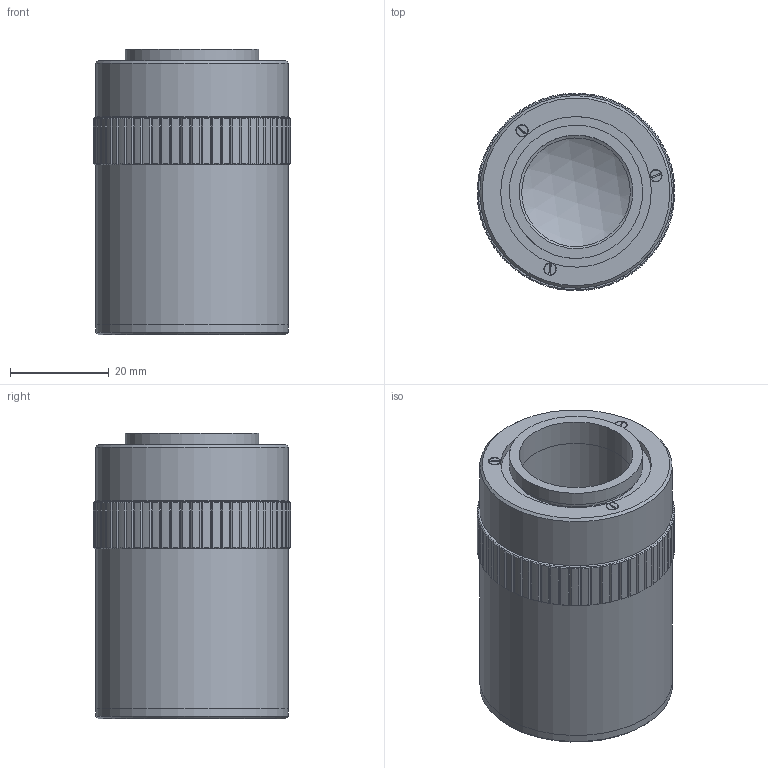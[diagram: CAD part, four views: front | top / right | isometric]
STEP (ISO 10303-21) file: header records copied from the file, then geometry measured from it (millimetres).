
FILE_DESCRIPTION (( 'STEP AP214' ), '1' );
FILE_NAME ('EFFO-SHARP-V2-NF.STEP', '2022-04-22T14:02:48', ( '' ), ( '' ), 'SwSTEP 2.0', 'SolidWorks 2021', '' );
FILE_SCHEMA (( 'AUTOMOTIVE_DESIGN' ));
Length unit declared in the file: millimetre
Products named in the file (1): EFFO-SHARP-V2-NF
Bounding box: 40 x 40 x 57.82 mm (x, y, z)
Surface area: 13732.6 mm2 (no closed solid volume)
Topology: 0 solids, 21 shells, 382 faces, 1129 edges, 765 vertices
Faces by surface type: plane 167, cone 129, cylinder 85, sphere 1
Full cylindrical faces by diameter (mm): 3.3 x1, 22 x2, 23 x2, 25.774 x1, 27 x1, 30.5 x1, 34.4 x1, 39 x3
Entity records: 17231 total; most frequent: CARTESIAN_POINT 3165, ORIENTED_EDGE 2109, DIRECTION 1921, EDGE_CURVE 1105, VERTEX_POINT 762, AXIS2_PLACEMENT_3D 710, VECTOR 501, LINE 501
